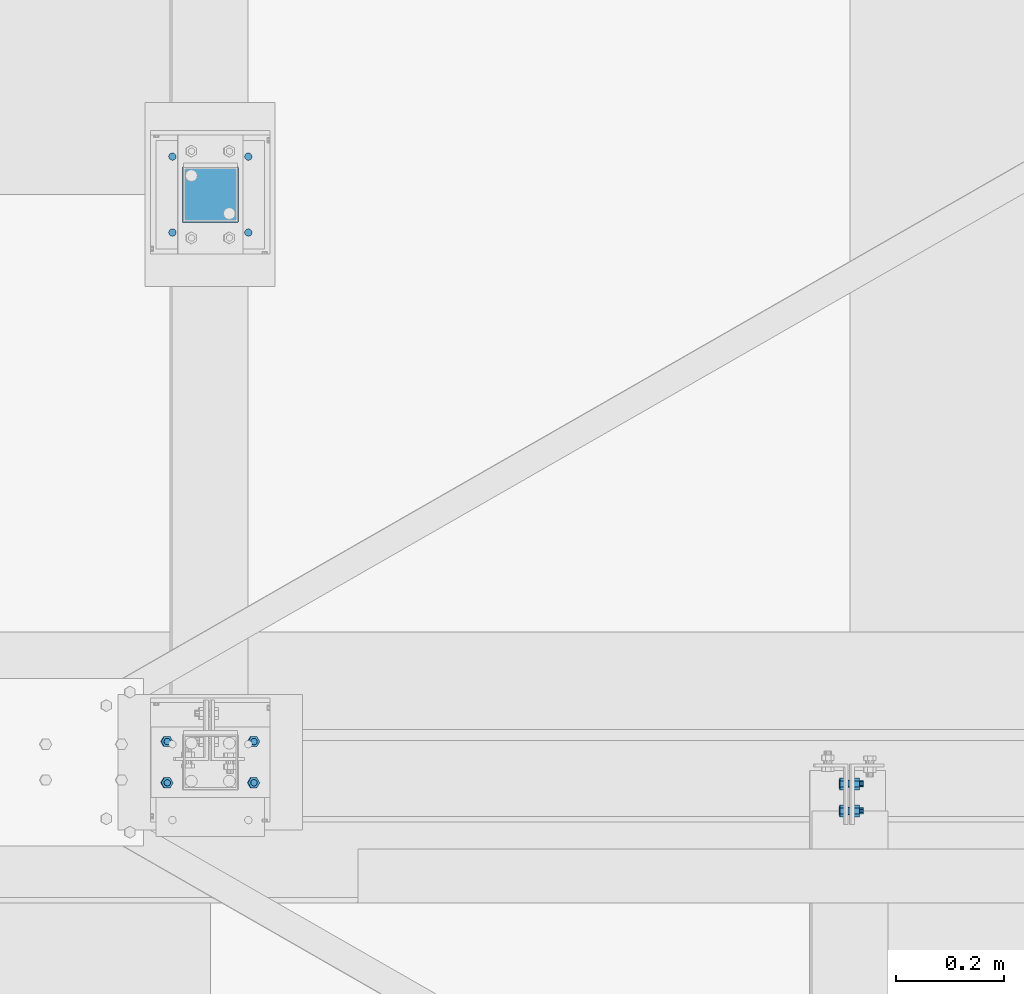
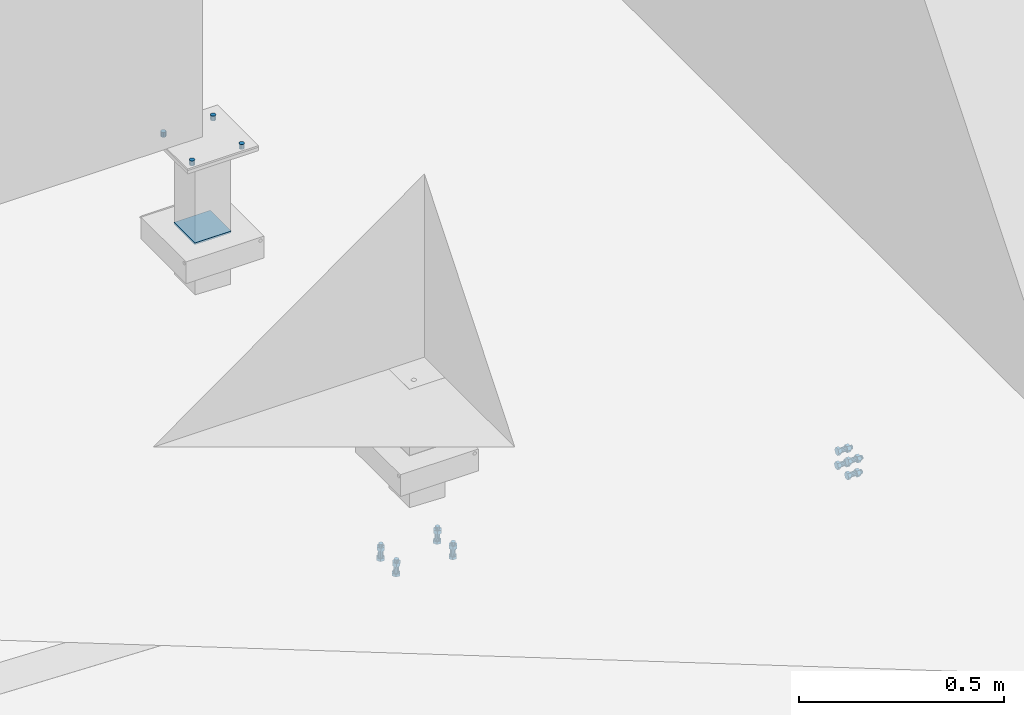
# One storey, part 370 of 3134: 4 mechanical fasteners, 3 elements without a shape of their own.
"""IFC2X3 building model written with IfcOpenShell, lengths in millimetres."""

from ifc_helpers import new_model, si_unit, frame, origin_with_axes, place, context, subcontext, project, spatial, faceted_brep, source, transform, mapped, material, type_object, element, aggregate, save


model = new_model("IFC2X3")

# Units and contexts
model_context = context("Model", 3, precision=1e-05, world=origin_with_axes())
body_context = subcontext(model_context, "Body", "Model", "MODEL_VIEW")
ifc_project = project(units=[si_unit("LENGTHUNIT", "METRE", prefix="MILLI"), si_unit("AREAUNIT", "SQUARE_METRE"), si_unit("VOLUMEUNIT", "CUBIC_METRE"), si_unit("MASSUNIT", "GRAM", prefix="KILO"), si_unit("TIMEUNIT", "SECOND"), si_unit("PLANEANGLEUNIT", "RADIAN"), si_unit("SOLIDANGLEUNIT", "STERADIAN"), si_unit("THERMODYNAMICTEMPERATUREUNIT", "DEGREE_CELSIUS"), si_unit("LUMINOUSINTENSITYUNIT", "LUMEN")], contexts=[model_context])

# Site, building, storey
site_placement = place(None, origin_with_axes())
site = spatial("IfcSite", under=ifc_project, at=site_placement, CompositionType="ELEMENT")
building_placement = place(site_placement, origin_with_axes())
building = spatial("IfcBuilding", under=site, at=building_placement, Name="Undefined", CompositionType="ELEMENT")
storey_placement = place(building_placement, origin_with_axes())
storey = spatial("IfcBuildingStorey", under=building, at=storey_placement, Name="Undefined", CompositionType="ELEMENT", Elevation=0.0)

# Assembly, mechanical fastener
assembly_1_placement = place(storey_placement, origin_with_axes())
assembly_1 = element("IfcElementAssembly", 1, at=assembly_1_placement, inside=storey, AssemblyPlace="NOTDEFINED", PredefinedType="RIGID_FRAME")
ifc_material_1 = material(Name="6.8")
mechanical_fastener_type = type_object("IfcMechanicalFastenerType", Name="Bolt assembly")
shared_shape_1 = source(origin_with_axes(), body_context, "Body", "Brep", [
    faceted_brep([(51.5, 1.36424205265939e-12, 50.0), (51.3858192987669, 1.36424205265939e-12, 50.5740251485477), (51.0606601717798, 1.36424205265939e-12, 51.0606601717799), (50.5740251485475, 1.36424205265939e-12, 51.385819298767), (-50.0000000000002, 1.36424205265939e-12, 51.5), (-50.7500000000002, 1.36424205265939e-12, 51.2990381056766), (-51.2990381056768, 1.36424205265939e-12, 50.7499999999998), (-51.5, 1.36424205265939e-12, 49.9999999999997), (-51.5, 1.36424205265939e-12, -50.0000000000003), (-51.2990381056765, 1.36424205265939e-12, -50.7500000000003), (-50.7499999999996, 1.36424205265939e-12, -51.2990381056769), (-49.9999999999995, 1.36424205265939e-12, -51.5), (50.0000000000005, 1.36424205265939e-12, -51.5), (50.7500000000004, 1.36424205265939e-12, -51.2990381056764), (51.2990381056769, 1.36424205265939e-12, -50.7499999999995), (51.5, 1.36424205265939e-12, -49.9999999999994), (51.5, 5.10000000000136, -49.9999999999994), (51.2990381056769, 5.10000000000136, -50.7499999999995), (50.7500000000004, 5.10000000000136, -51.2990381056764), (50.0000000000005, 5.10000000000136, -51.5), (-49.9999999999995, 5.10000000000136, -51.5), (-50.7499999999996, 5.10000000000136, -51.2990381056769), (-51.2990381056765, 5.10000000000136, -50.7500000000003), (-51.5, 5.10000000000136, -50.0000000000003), (-51.5, 5.10000000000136, 49.9999999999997), (-51.2990381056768, 5.10000000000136, 50.7499999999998), (-50.7500000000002, 5.10000000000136, 51.2990381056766), (-50.0000000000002, 5.10000000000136, 51.5), (50.5740251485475, 5.10000000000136, 51.385819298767), (51.0606601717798, 5.10000000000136, 51.0606601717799), (51.3858192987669, 5.10000000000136, 50.5740251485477), (51.5, 5.10000000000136, 50.0)], [[[0, 1, 2, 3, 4, 5, 6, 7, 8, 9, 10, 11, 12, 13, 14, 15]], [[16, 17, 18, 19, 20, 21, 22, 23, 24, 25, 26, 27, 28, 29, 30, 31]], [[0, 31, 30, 1]], [[1, 30, 29, 2]], [[2, 29, 28, 3]], [[3, 28, 27, 4]], [[4, 27, 26, 5]], [[5, 26, 25, 6]], [[6, 25, 24, 7]], [[7, 24, 23, 8]], [[8, 23, 22, 9]], [[9, 22, 21, 10]], [[10, 21, 20, 11]], [[11, 20, 19, 12]], [[12, 19, 18, 13]], [[13, 18, 17, 14]], [[14, 17, 16, 15]], [[15, 16, 31, 0]]]),
])
mechanical_fastener_1_placement = place(assembly_1_placement, frame((75824.0, 20847.0, 4212.39), z_axis=(0.0, -1.0, 0.0), x_axis=(-1.0, 0.0, 0.0)))
mechanical_fastener_1 = element("IfcMechanicalFastener", 2, at=mechanical_fastener_1_placement, type_object=mechanical_fastener_type, material=ifc_material_1, Name="Bolt assembly", NominalDiameter=10.0, NominalLength=5.0, context=body_context, shape_type="MappedRepresentation", body=[
    mapped(shared_shape_1, transform((0.0, 0.0, 0.0))),
])

assembly_2_placement = place(storey_placement, origin_with_axes())
assembly_2 = element("IfcElementAssembly", 3, at=assembly_2_placement, inside=storey, AssemblyPlace="NOTDEFINED", PredefinedType="RIGID_FRAME")
ifc_material_2 = material(Name="8.8")
shared_shape_2 = source(origin_with_axes(), body_context, "Body", "Brep", [
    faceted_brep([(10.9696551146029, -19.2575524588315, 0.0), (5.48482755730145, -19.2575524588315, 9.5), (-5.48482755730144, -19.2575524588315, 9.5), (-10.9696551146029, -19.2575524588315, 1.34339530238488e-15), (-5.48482755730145, -19.2575524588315, -9.5), (5.48482755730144, -19.2575524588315, -9.50000000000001), (5.48482755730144, -11.2575524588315, -9.50000000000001), (-5.48482755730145, -11.2575524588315, -9.5), (-10.9696551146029, -11.2575524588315, 1.34339530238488e-15), (-5.48482755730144, -11.2575524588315, 9.5), (5.48482755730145, -11.2575524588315, 9.5), (10.9696551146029, -11.2575524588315, 0.0), (6.0, -11.2575524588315, 0.0), (5.19615242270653, -11.2575524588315, 3.00000000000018), (2.99999999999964, -11.2575524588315, 5.19615242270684), (-6.21801588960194e-13, -11.2575524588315, 6.0), (-3.00000000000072, -11.2575524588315, 5.19615242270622), (-5.19615242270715, -11.2575524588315, 2.9999999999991), (-6.0, -11.2575524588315, -1.24360317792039e-12), (-5.19615242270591, -11.2575524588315, -3.00000000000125), (-2.99999999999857, -11.2575524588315, -5.19615242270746), (1.85874342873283e-12, -11.2575524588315, -6.0), (3.00000000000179, -11.2575524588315, -5.1961524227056), (5.19615242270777, -11.2575524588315, -2.99999999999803), (5.19615242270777, 23.7424475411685, -2.99999999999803), (3.00000000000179, 23.7424475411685, -5.1961524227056), (1.85874342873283e-12, 23.7424475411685, -6.0), (-2.99999999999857, 23.7424475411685, -5.19615242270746), (-5.19615242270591, 23.7424475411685, -3.00000000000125), (-6.0, 23.7424475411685, -1.24360317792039e-12), (-5.19615242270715, 23.7424475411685, 2.9999999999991), (-3.00000000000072, 23.7424475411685, 5.19615242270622), (-6.21801588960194e-13, 23.7424475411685, 6.0), (2.99999999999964, 23.7424475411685, 5.19615242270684), (5.19615242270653, 23.7424475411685, 3.00000000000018), (6.0, 23.7424475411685, 0.0), (10.9696551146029, 6.25018760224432, 0.0), (5.48482755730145, 6.25018760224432, 9.5), (-5.48482755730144, 6.25018760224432, 9.5), (-10.9696551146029, 6.25018760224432, 1.34339530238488e-15), (-5.48482755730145, 6.25018760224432, -9.5), (5.48482755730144, 6.25018760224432, -9.50000000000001), (5.48482755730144, 16.2501876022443, -9.50000000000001), (-5.48482755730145, 16.2501876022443, -9.5), (-10.9696551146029, 16.2501876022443, 1.34339530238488e-15), (-5.48482755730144, 16.2501876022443, 9.5), (5.48482755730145, 16.2501876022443, 9.5), (10.9696551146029, 16.2501876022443, 0.0)], [[[0, 1, 2, 3, 4, 5]], [[6, 7, 8, 9, 10, 11]], [[0, 11, 10, 1]], [[1, 10, 9, 2]], [[2, 9, 8, 3]], [[3, 8, 7, 4]], [[4, 7, 6, 5]], [[5, 6, 11, 0]], [[12, 13, 14, 15, 16, 17, 18, 19, 20, 21, 22, 23]], [[24, 25, 26, 27, 28, 29, 30, 31, 32, 33, 34, 35]], [[12, 35, 34, 13]], [[13, 34, 33, 14]], [[14, 33, 32, 15]], [[15, 32, 31, 16]], [[16, 31, 30, 17]], [[17, 30, 29, 18]], [[18, 29, 28, 19]], [[19, 28, 27, 20]], [[20, 27, 26, 21]], [[21, 26, 25, 22]], [[22, 25, 24, 23]], [[23, 24, 35, 12]], [[36, 37, 38, 39, 40, 41]], [[42, 43, 44, 45, 46, 47]], [[36, 47, 46, 37]], [[37, 46, 45, 38]], [[38, 45, 44, 39]], [[39, 44, 43, 40]], [[40, 43, 42, 41]], [[41, 42, 47, 36]]]),
    faceted_brep([(7.0, -11.1575524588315, 0.0), (6.06217782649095, -11.1575524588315, 3.50000000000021), (3.49999999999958, -11.1575524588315, 6.06217782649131), (-7.25435187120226e-13, -11.1575524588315, 7.0), (-3.50000000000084, -11.1575524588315, 6.06217782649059), (-6.06217782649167, -11.1575524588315, 3.49999999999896), (-7.0, -11.1575524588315, -1.45087037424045e-12), (-6.06217782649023, -11.1575524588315, -3.50000000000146), (-3.49999999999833, -11.1575524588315, -6.06217782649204), (2.1685340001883e-12, -11.1575524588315, -7.0), (3.50000000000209, -11.1575524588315, -6.06217782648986), (6.0621778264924, -11.1575524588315, -3.4999999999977), (6.0621778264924, -5.15755245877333, -3.4999999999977), (3.50000000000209, -5.15755245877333, -6.06217782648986), (2.1685340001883e-12, -5.15755245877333, -7.0), (-3.49999999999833, -5.15755245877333, -6.06217782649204), (-6.06217782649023, -5.15755245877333, -3.50000000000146), (-7.0, -5.15755245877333, -1.45087037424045e-12), (-6.06217782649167, -5.15755245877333, 3.49999999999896), (-3.50000000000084, -5.15755245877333, 6.06217782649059), (-7.25435187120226e-13, -5.15755245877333, 7.0), (3.49999999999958, -5.15755245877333, 6.06217782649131), (6.06217782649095, -5.15755245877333, 3.50000000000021), (7.0, -5.15755245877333, 0.0), (7.0, 0.150187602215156, 0.0), (6.06217782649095, 0.150187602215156, 3.50000000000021), (3.49999999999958, 0.150187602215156, 6.06217782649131), (-7.25435187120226e-13, 0.150187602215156, 7.0), (-3.50000000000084, 0.150187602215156, 6.06217782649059), (-6.06217782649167, 0.150187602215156, 3.49999999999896), (-7.0, 0.150187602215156, -1.45087037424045e-12), (-6.06217782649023, 0.150187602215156, -3.50000000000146), (-3.49999999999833, 0.150187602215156, -6.06217782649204), (2.1685340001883e-12, 0.150187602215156, -7.0), (3.50000000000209, 0.150187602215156, -6.06217782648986), (6.0621778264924, 0.150187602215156, -3.4999999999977), (6.0621778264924, 6.25018760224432, -3.4999999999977), (3.50000000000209, 6.25018760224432, -6.06217782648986), (2.1685340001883e-12, 6.25018760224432, -7.0), (-3.49999999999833, 6.25018760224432, -6.06217782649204), (-6.06217782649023, 6.25018760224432, -3.50000000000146), (-7.0, 6.25018760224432, -1.45087037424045e-12), (-6.06217782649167, 6.25018760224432, 3.49999999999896), (-3.50000000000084, 6.25018760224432, 6.06217782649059), (-7.25435187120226e-13, 6.25018760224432, 7.0), (3.49999999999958, 6.25018760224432, 6.06217782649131), (6.06217782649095, 6.25018760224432, 3.50000000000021), (7.0, 6.25018760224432, 0.0), (7.0, -5.25082704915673, 0.0), (6.06217782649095, -5.25082704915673, 3.50000000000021), (3.49999999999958, -5.25082704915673, 6.06217782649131), (-7.25435187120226e-13, -5.25082704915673, 7.0), (-3.50000000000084, -5.25082704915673, 6.06217782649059), (-6.06217782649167, -5.25082704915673, 3.49999999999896), (-7.0, -5.25082704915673, -1.45087037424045e-12), (-6.06217782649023, -5.25082704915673, -3.50000000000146), (-3.49999999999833, -5.25082704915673, -6.06217782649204), (2.1685340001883e-12, -5.25082704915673, -7.0), (3.50000000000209, -5.25082704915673, -6.06217782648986), (6.0621778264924, -5.25082704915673, -3.4999999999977), (6.0621778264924, 0.249172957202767, -3.4999999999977), (3.50000000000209, 0.249172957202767, -6.06217782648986), (2.1685340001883e-12, 0.249172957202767, -7.0), (-3.49999999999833, 0.249172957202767, -6.06217782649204), (-6.06217782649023, 0.249172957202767, -3.50000000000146), (-7.0, 0.249172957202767, -1.45087037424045e-12), (-6.06217782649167, 0.249172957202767, 3.49999999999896), (-3.50000000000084, 0.249172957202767, 6.06217782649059), (-7.25435187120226e-13, 0.249172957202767, 7.0), (3.49999999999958, 0.249172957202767, 6.06217782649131), (6.06217782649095, 0.249172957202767, 3.50000000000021), (7.0, 0.249172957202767, 0.0)], [[[0, 1, 2, 3, 4, 5, 6, 7, 8, 9, 10, 11]], [[12, 13, 14, 15, 16, 17, 18, 19, 20, 21, 22, 23]], [[0, 23, 22, 1]], [[1, 22, 21, 2]], [[2, 21, 20, 3]], [[3, 20, 19, 4]], [[4, 19, 18, 5]], [[5, 18, 17, 6]], [[6, 17, 16, 7]], [[7, 16, 15, 8]], [[8, 15, 14, 9]], [[9, 14, 13, 10]], [[10, 13, 12, 11]], [[11, 12, 23, 0]], [[24, 25, 26, 27, 28, 29, 30, 31, 32, 33, 34, 35]], [[36, 37, 38, 39, 40, 41, 42, 43, 44, 45, 46, 47]], [[24, 47, 46, 25]], [[25, 46, 45, 26]], [[26, 45, 44, 27]], [[27, 44, 43, 28]], [[28, 43, 42, 29]], [[29, 42, 41, 30]], [[30, 41, 40, 31]], [[31, 40, 39, 32]], [[32, 39, 38, 33]], [[33, 38, 37, 34]], [[34, 37, 36, 35]], [[35, 36, 47, 24]], [[48, 49, 50, 51, 52, 53, 54, 55, 56, 57, 58, 59]], [[60, 61, 62, 63, 64, 65, 66, 67, 68, 69, 70, 71]], [[48, 71, 70, 49]], [[49, 70, 69, 50]], [[50, 69, 68, 51]], [[51, 68, 67, 52]], [[52, 67, 66, 53]], [[53, 66, 65, 54]], [[54, 65, 64, 55]], [[55, 64, 63, 56]], [[56, 63, 62, 57]], [[57, 62, 61, 58]], [[58, 61, 60, 59]], [[59, 60, 71, 48]]]),
])
mechanical_fastener_2_placement = place(assembly_2_placement, frame((77004.0608079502, 19760.0, 3772.66212572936), z_axis=(0.0309396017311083, 0.0, 0.999521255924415), x_axis=(0.0, -1.0, 0.0)))
mechanical_fastener_2 = element("IfcMechanicalFastener", 4, at=mechanical_fastener_2_placement, type_object=mechanical_fastener_type, material=ifc_material_2, Name="Bolt assembly", NominalDiameter=12.0, NominalLength=35.0, context=body_context, shape_type="MappedRepresentation", body=[
    mapped(shared_shape_2, transform((0.0, 0.0, -21.0))),
    mapped(shared_shape_2, transform((50.0, -1.01863406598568e-10, -20.9999999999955))),
    mapped(shared_shape_2, transform((0.0, 0.0, 21.0))),
    mapped(shared_shape_2, transform((50.0, 1.30967237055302e-10, 20.9999999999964))),
])
aggregate(assembly_2, [mechanical_fastener_2])

# Mechanical fastener
shared_shape_3 = source(origin_with_axes(), body_context, "Body", "Brep", [
    faceted_brep([(7.0, -4.90000000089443, 0.0), (6.06217782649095, -4.90000000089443, 3.50000000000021), (3.49999999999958, -4.90000000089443, 6.06217782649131), (-7.25435187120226e-13, -4.90000000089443, 7.0), (-3.50000000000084, -4.90000000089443, 6.06217782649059), (-6.06217782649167, -4.90000000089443, 3.49999999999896), (-7.0, -4.90000000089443, -1.45087037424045e-12), (-6.06217782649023, -4.90000000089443, -3.50000000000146), (-3.49999999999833, -4.90000000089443, -6.06217782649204), (2.1685340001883e-12, -4.90000000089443, -7.0), (3.50000000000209, -4.90000000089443, -6.06217782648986), (6.0621778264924, -4.90000000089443, -3.4999999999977), (6.0621778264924, 0.0999999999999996, -3.4999999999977), (3.50000000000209, 0.0999999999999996, -6.06217782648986), (2.1685340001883e-12, 0.0999999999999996, -7.0), (-3.49999999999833, 0.0999999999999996, -6.06217782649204), (-6.06217782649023, 0.0999999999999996, -3.50000000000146), (-7.0, 0.0999999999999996, -1.45087037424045e-12), (-6.06217782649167, 0.0999999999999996, 3.49999999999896), (-3.50000000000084, 0.0999999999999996, 6.06217782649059), (-7.25435187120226e-13, 0.0999999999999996, 7.0), (3.49999999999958, 0.0999999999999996, 6.06217782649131), (6.06217782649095, 0.0999999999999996, 3.50000000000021), (7.0, 0.0999999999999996, 0.0), (7.0, -0.1, 0.0), (6.06217782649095, -0.1, 3.50000000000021), (3.49999999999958, -0.1, 6.06217782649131), (-7.25435187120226e-13, -0.1, 7.0), (-3.50000000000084, -0.1, 6.06217782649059), (-6.06217782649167, -0.1, 3.49999999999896), (-7.0, -0.1, -1.45087037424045e-12), (-6.06217782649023, -0.1, -3.50000000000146), (-3.49999999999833, -0.1, -6.06217782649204), (2.1685340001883e-12, -0.1, -7.0), (3.50000000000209, -0.1, -6.06217782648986), (6.0621778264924, -0.1, -3.4999999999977), (6.0621778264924, 10.0, -3.4999999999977), (3.50000000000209, 10.0, -6.06217782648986), (2.1685340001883e-12, 10.0, -7.0), (-3.49999999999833, 10.0, -6.06217782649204), (-6.06217782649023, 10.0, -3.50000000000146), (-7.0, 10.0, -1.45087037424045e-12), (-6.06217782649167, 10.0, 3.49999999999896), (-3.50000000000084, 10.0, 6.06217782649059), (-7.25435187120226e-13, 10.0, 7.0), (3.49999999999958, 10.0, 6.06217782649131), (6.06217782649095, 10.0, 3.50000000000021), (7.0, 10.0, 0.0)], [[[0, 1, 2, 3, 4, 5, 6, 7, 8, 9, 10, 11]], [[12, 13, 14, 15, 16, 17, 18, 19, 20, 21, 22, 23]], [[0, 23, 22, 1]], [[1, 22, 21, 2]], [[2, 21, 20, 3]], [[3, 20, 19, 4]], [[4, 19, 18, 5]], [[5, 18, 17, 6]], [[6, 17, 16, 7]], [[7, 16, 15, 8]], [[8, 15, 14, 9]], [[9, 14, 13, 10]], [[10, 13, 12, 11]], [[11, 12, 23, 0]], [[24, 25, 26, 27, 28, 29, 30, 31, 32, 33, 34, 35]], [[36, 37, 38, 39, 40, 41, 42, 43, 44, 45, 46, 47]], [[24, 47, 46, 25]], [[25, 46, 45, 26]], [[26, 45, 44, 27]], [[27, 44, 43, 28]], [[28, 43, 42, 29]], [[29, 42, 41, 30]], [[30, 41, 40, 31]], [[31, 40, 39, 32]], [[32, 39, 38, 33]], [[33, 38, 37, 34]], [[34, 37, 36, 35]], [[35, 36, 47, 24]]]),
])
mechanical_fastener_3_placement = place(assembly_1_placement, frame((75824.0, 20777.0, 4475.0), z_axis=(-1.0, 0.0, 0.0), x_axis=(0.0, 1.0, 0.0)))
mechanical_fastener_3 = element("IfcMechanicalFastener", 5, at=mechanical_fastener_3_placement, type_object=mechanical_fastener_type, material=ifc_material_2, Name="Bolt assembly", NominalDiameter=12.0, NominalLength=15.0, context=body_context, shape_type="MappedRepresentation", body=[
    mapped(shared_shape_3, transform((0.0, 0.0, -70.0))),
    mapped(shared_shape_3, transform((140.0, 0.0, -70.0))),
    mapped(shared_shape_3, transform((0.0, 0.0, 70.0))),
    mapped(shared_shape_3, transform((140.0, 0.0, 70.0))),
])

aggregate(assembly_1, [mechanical_fastener_3, mechanical_fastener_1])

# Assembly, mechanical fastener
assembly_3_placement = place(storey_placement, origin_with_axes())
assembly_3 = element("IfcElementAssembly", 6, at=assembly_3_placement, inside=storey, AssemblyPlace="NOTDEFINED", PredefinedType="RIGID_FRAME")
shared_shape_4 = source(origin_with_axes(), body_context, "Body", "Brep", [
    faceted_brep([(10.9696551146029, -29.8300001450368, 0.0), (5.48482755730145, -29.8300001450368, 9.5), (-5.48482755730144, -29.8300001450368, 9.5), (-10.9696551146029, -29.8300001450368, 1.34339530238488e-15), (-5.48482755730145, -29.8300001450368, -9.5), (5.48482755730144, -29.8300001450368, -9.50000000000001), (5.48482755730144, -21.8300001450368, -9.50000000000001), (-5.48482755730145, -21.8300001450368, -9.5), (-10.9696551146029, -21.8300001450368, 1.34339530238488e-15), (-5.48482755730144, -21.8300001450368, 9.5), (5.48482755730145, -21.8300001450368, 9.5), (10.9696551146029, -21.8300001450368, 0.0), (6.0, -21.8300001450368, 0.0), (5.19615242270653, -21.8300001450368, 3.00000000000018), (2.99999999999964, -21.8300001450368, 5.19615242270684), (-6.21801588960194e-13, -21.8300001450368, 6.0), (-3.00000000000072, -21.8300001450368, 5.19615242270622), (-5.19615242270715, -21.8300001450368, 2.9999999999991), (-6.0, -21.8300001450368, -1.24360317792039e-12), (-5.19615242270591, -21.8300001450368, -3.00000000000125), (-2.99999999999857, -21.8300001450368, -5.19615242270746), (1.85874342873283e-12, -21.8300001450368, -6.0), (3.00000000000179, -21.8300001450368, -5.1961524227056), (5.19615242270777, -21.8300001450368, -2.99999999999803), (5.19615242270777, 18.1699998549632, -2.99999999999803), (3.00000000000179, 18.1699998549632, -5.1961524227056), (1.85874342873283e-12, 18.1699998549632, -6.0), (-2.99999999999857, 18.1699998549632, -5.19615242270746), (-5.19615242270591, 18.1699998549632, -3.00000000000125), (-6.0, 18.1699998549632, -1.24360317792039e-12), (-5.19615242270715, 18.1699998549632, 2.9999999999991), (-3.00000000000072, 18.1699998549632, 5.19615242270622), (-6.21801588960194e-13, 18.1699998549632, 6.0), (2.99999999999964, 18.1699998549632, 5.19615242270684), (5.19615242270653, 18.1699998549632, 3.00000000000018), (6.0, 18.1699998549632, 0.0), (10.9696551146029, 0.0, 0.0), (5.48482755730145, 0.0, 9.5), (-5.48482755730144, 0.0, 9.5), (-10.9696551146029, 0.0, 1.34339530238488e-15), (-5.48482755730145, 0.0, -9.5), (5.48482755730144, 0.0, -9.50000000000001), (5.48482755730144, 10.0, -9.50000000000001), (-5.48482755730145, 10.0, -9.5), (-10.9696551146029, 10.0, 1.34339530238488e-15), (-5.48482755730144, 10.0, 9.5), (5.48482755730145, 10.0, 9.5), (10.9696551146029, 10.0, 0.0)], [[[0, 1, 2, 3, 4, 5]], [[6, 7, 8, 9, 10, 11]], [[0, 11, 10, 1]], [[1, 10, 9, 2]], [[2, 9, 8, 3]], [[3, 8, 7, 4]], [[4, 7, 6, 5]], [[5, 6, 11, 0]], [[12, 13, 14, 15, 16, 17, 18, 19, 20, 21, 22, 23]], [[24, 25, 26, 27, 28, 29, 30, 31, 32, 33, 34, 35]], [[12, 35, 34, 13]], [[13, 34, 33, 14]], [[14, 33, 32, 15]], [[15, 32, 31, 16]], [[16, 31, 30, 17]], [[17, 30, 29, 18]], [[18, 29, 28, 19]], [[19, 28, 27, 20]], [[20, 27, 26, 21]], [[21, 26, 25, 22]], [[22, 25, 24, 23]], [[23, 24, 35, 12]], [[36, 37, 38, 39, 40, 41]], [[42, 43, 44, 45, 46, 47]], [[36, 47, 46, 37]], [[37, 46, 45, 38]], [[38, 45, 44, 39]], [[39, 44, 43, 40]], [[40, 43, 42, 41]], [[41, 42, 47, 36]]]),
    faceted_brep([(7.0, -10.0999999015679, 0.0), (6.06217782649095, -10.0999999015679, 3.50000000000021), (3.49999999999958, -10.0999999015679, 6.06217782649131), (-7.25435187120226e-13, -10.0999999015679, 7.0), (-3.50000000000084, -10.0999999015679, 6.06217782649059), (-6.06217782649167, -10.0999999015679, 3.49999999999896), (-7.0, -10.0999999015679, -1.45087037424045e-12), (-6.06217782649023, -10.0999999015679, -3.50000000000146), (-3.49999999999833, -10.0999999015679, -6.06217782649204), (2.1685340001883e-12, -10.0999999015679, -7.0), (3.50000000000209, -10.0999999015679, -6.06217782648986), (6.0621778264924, -10.0999999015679, -3.4999999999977), (6.0621778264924, 0.0, -3.4999999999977), (3.50000000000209, 0.0, -6.06217782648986), (2.1685340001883e-12, 0.0, -7.0), (-3.49999999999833, 0.0, -6.06217782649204), (-6.06217782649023, 0.0, -3.50000000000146), (-7.0, 0.0, -1.45087037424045e-12), (-6.06217782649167, 0.0, 3.49999999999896), (-3.50000000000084, 0.0, 6.06217782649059), (-7.25435187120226e-13, 0.0, 7.0), (3.49999999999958, 0.0, 6.06217782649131), (6.06217782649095, 0.0, 3.50000000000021), (7.0, 0.0, 0.0), (7.0, -11.9999999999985, 0.0), (6.06217782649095, -11.9999999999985, 3.50000000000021), (3.49999999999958, -11.9999999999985, 6.06217782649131), (-7.25435187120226e-13, -11.9999999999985, 7.0), (-3.50000000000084, -11.9999999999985, 6.06217782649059), (-6.06217782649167, -11.9999999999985, 3.49999999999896), (-7.0, -11.9999999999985, -1.45087037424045e-12), (-6.06217782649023, -11.9999999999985, -3.50000000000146), (-3.49999999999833, -11.9999999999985, -6.06217782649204), (2.1685340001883e-12, -11.9999999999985, -7.0), (3.50000000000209, -11.9999999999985, -6.06217782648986), (6.0621778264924, -11.9999999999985, -3.4999999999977), (6.0621778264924, -10.0, -3.4999999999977), (3.50000000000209, -10.0, -6.06217782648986), (2.1685340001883e-12, -10.0, -7.0), (-3.49999999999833, -10.0, -6.06217782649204), (-6.06217782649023, -10.0, -3.50000000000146), (-7.0, -10.0, -1.45087037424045e-12), (-6.06217782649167, -10.0, 3.49999999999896), (-3.50000000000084, -10.0, 6.06217782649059), (-7.25435187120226e-13, -10.0, 7.0), (3.49999999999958, -10.0, 6.06217782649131), (6.06217782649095, -10.0, 3.50000000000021), (7.0, -10.0, 0.0), (7.0, -21.7300001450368, 0.0), (6.06217782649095, -21.7300001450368, 3.50000000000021), (3.49999999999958, -21.7300001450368, 6.06217782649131), (-7.25435187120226e-13, -21.7300001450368, 7.0), (-3.50000000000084, -21.7300001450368, 6.06217782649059), (-6.06217782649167, -21.7300001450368, 3.49999999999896), (-7.0, -21.7300001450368, -1.45087037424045e-12), (-6.06217782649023, -21.7300001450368, -3.50000000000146), (-3.49999999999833, -21.7300001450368, -6.06217782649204), (2.1685340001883e-12, -21.7300001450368, -7.0), (3.50000000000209, -21.7300001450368, -6.06217782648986), (6.0621778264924, -21.7300001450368, -3.4999999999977), (6.0621778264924, -11.9299999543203, -3.4999999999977), (3.50000000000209, -11.9299999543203, -6.06217782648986), (2.1685340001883e-12, -11.9299999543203, -7.0), (-3.49999999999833, -11.9299999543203, -6.06217782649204), (-6.06217782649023, -11.9299999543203, -3.50000000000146), (-7.0, -11.9299999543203, -1.45087037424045e-12), (-6.06217782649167, -11.9299999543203, 3.49999999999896), (-3.50000000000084, -11.9299999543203, 6.06217782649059), (-7.25435187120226e-13, -11.9299999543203, 7.0), (3.49999999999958, -11.9299999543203, 6.06217782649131), (6.06217782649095, -11.9299999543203, 3.50000000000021), (7.0, -11.9299999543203, 0.0)], [[[0, 1, 2, 3, 4, 5, 6, 7, 8, 9, 10, 11]], [[12, 13, 14, 15, 16, 17, 18, 19, 20, 21, 22, 23]], [[0, 23, 22, 1]], [[1, 22, 21, 2]], [[2, 21, 20, 3]], [[3, 20, 19, 4]], [[4, 19, 18, 5]], [[5, 18, 17, 6]], [[6, 17, 16, 7]], [[7, 16, 15, 8]], [[8, 15, 14, 9]], [[9, 14, 13, 10]], [[10, 13, 12, 11]], [[11, 12, 23, 0]], [[24, 25, 26, 27, 28, 29, 30, 31, 32, 33, 34, 35]], [[36, 37, 38, 39, 40, 41, 42, 43, 44, 45, 46, 47]], [[24, 47, 46, 25]], [[25, 46, 45, 26]], [[26, 45, 44, 27]], [[27, 44, 43, 28]], [[28, 43, 42, 29]], [[29, 42, 41, 30]], [[30, 41, 40, 31]], [[31, 40, 39, 32]], [[32, 39, 38, 33]], [[33, 38, 37, 34]], [[34, 37, 36, 35]], [[35, 36, 47, 24]], [[48, 49, 50, 51, 52, 53, 54, 55, 56, 57, 58, 59]], [[60, 61, 62, 63, 64, 65, 66, 67, 68, 69, 70, 71]], [[48, 71, 70, 49]], [[49, 70, 69, 50]], [[50, 69, 68, 51]], [[51, 68, 67, 52]], [[52, 67, 66, 53]], [[53, 66, 65, 54]], [[54, 65, 64, 55]], [[55, 64, 63, 56]], [[56, 63, 62, 57]], [[57, 62, 61, 58]], [[58, 61, 60, 59]], [[59, 60, 71, 48]]]),
])
mechanical_fastener_4_placement = place(assembly_3_placement, frame((75744.0414547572, 19800.0, 3890.23554817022), z_axis=(0.0, -1.0, 0.0), x_axis=(0.999519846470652, 0.0, -0.0309851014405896)))
mechanical_fastener_4 = element("IfcMechanicalFastener", 7, at=mechanical_fastener_4_placement, type_object=mechanical_fastener_type, material=ifc_material_2, Name="Bolt assembly", NominalDiameter=12.0, NominalLength=40.0, context=body_context, shape_type="MappedRepresentation", body=[
    mapped(shared_shape_4, transform((0.0, 0.0, -38.0))),
    mapped(shared_shape_4, transform((159.99999999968, -2.71938915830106e-10, -38.0))),
    mapped(shared_shape_4, transform((0.0, 0.0, 38.0))),
    mapped(shared_shape_4, transform((159.99999999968, -2.71938915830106e-10, 38.0))),
])
aggregate(assembly_3, [mechanical_fastener_4])

save(model, "model.ifc")
